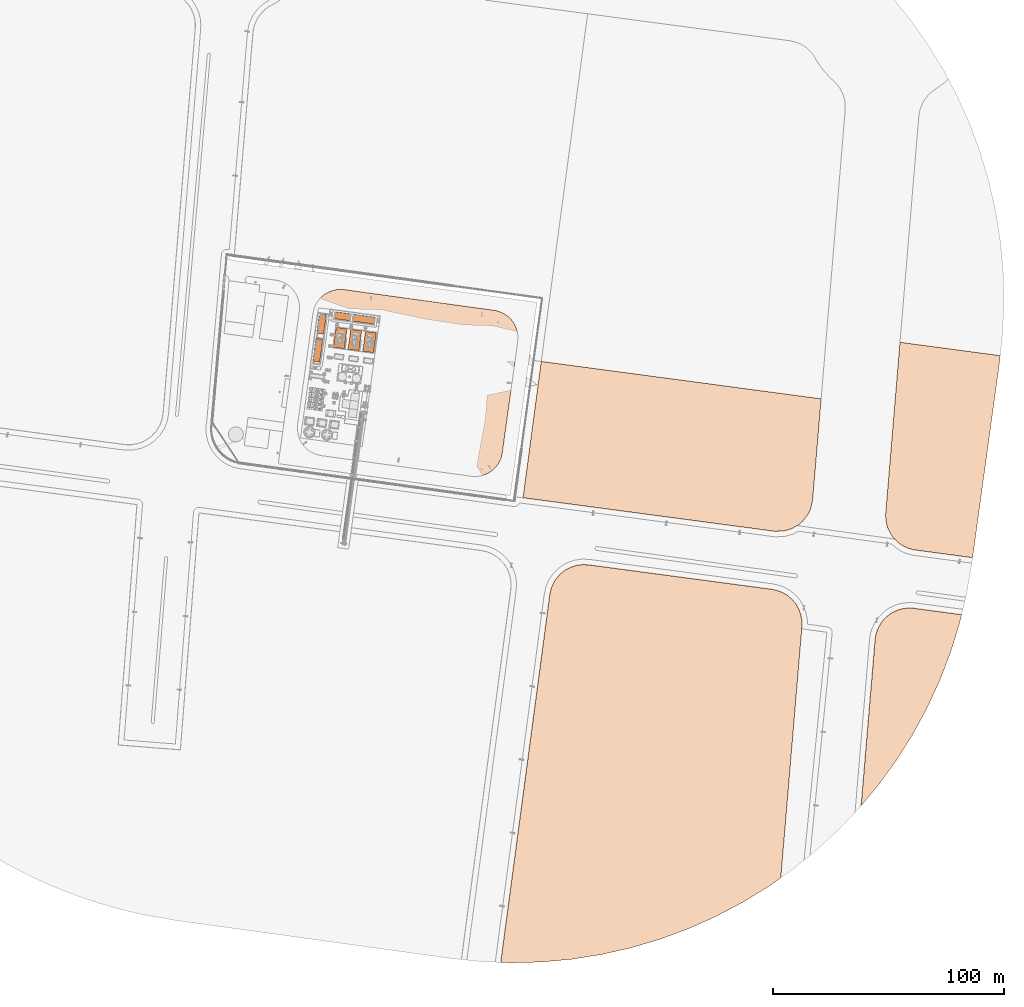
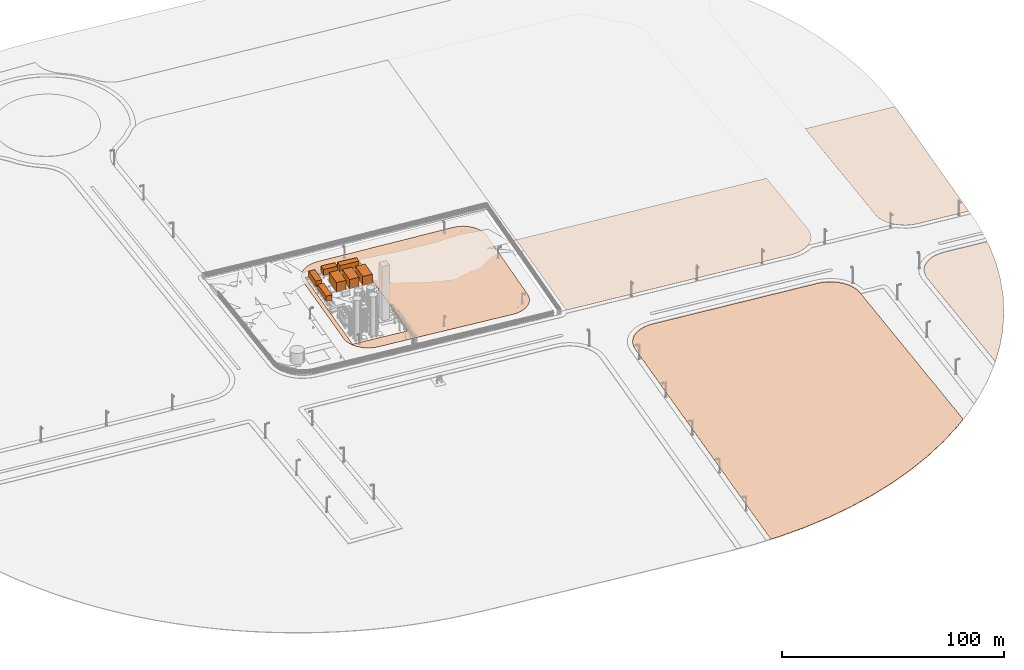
# Not in any storey, part 73 of 75: 7 proxies, 5 geographic elements.
"""IFC4 model written with IfcOpenShell, lengths in metres."""

from ifc_helpers import new_model, si_unit, direction, origin, origin_with_axes, place, context, subcontext, project, spatial, triangles, element, save


model = new_model("IFC4")

# Units and contexts
model_context = context("Model", 3, precision=1e-05, world=origin_with_axes(), true_north=direction((0.0, 1.0)))
body_context = subcontext(model_context, "Body", "Model", "MODEL_VIEW")
ifc_project = project(units=[si_unit("AREAUNIT", "SQUARE_METRE"), si_unit("VOLUMEUNIT", "CUBIC_METRE"), si_unit("LENGTHUNIT", "METRE")], contexts=[model_context])

# Site
site_placement = place(None, origin_with_axes())
site = spatial("IfcSite", under=ifc_project, at=site_placement, Name="Parcela industrial Jinhong")

# Geographic element
geographic_element_1_placement = place(site_placement, origin_with_axes())
element("IfcGeographicElement", 1, at=geographic_element_1_placement, inside=site, Name="Zona verde 01", ObjectType="Zonas verdes", PredefinedType="USERDEFINED", context=body_context, shape_type="Tessellation", body=[
    triangles([(32.058628, 29.712576, 1.096593), (32.502688, 30.025706, 1.103827), (32.512552, 30.017039, 1.104093), (41.523277, 22.368573, 1.171597), (42.918307, 28.588013, 1.254918), (50.71433, 27.498025, 1.321823), (84.274938, 89.754356, 1.79105), (66.369342, 77.999795, 1.493502), (66.539488, 79.121568, 1.489537), (77.398109, 90.708115, 1.640001), (66.675538, 80.209033, 1.485085), (66.947653, 82.11204, 1.478011), (60.921046, 92.956342, 1.278333), (65.449758, 82.928418, 1.441017), (60.241065, 83.643762, 1.326656), (51.457057, 94.28474, 1.070351), (52.308926, 84.73379, 1.152495), (47.951298, 85.34691, 1.056722), (32.603058, 30.902492, 1.100042), (31.377333, 32.12654, 1.066031), (32.943208, 33.38324, 1.090513), (31.649752, 30.90298, 1.079988), (33.147379, 34.640964, 1.08635), (31.172894, 34.641808, 1.044816), (31.274897, 35.899206, 1.038506), (38.180874, 85.281591, 0.851667), (39.951289, 84.057776, 0.897133), (37.94278, 84.058554, 0.854884), (40.121402, 85.281377, 0.892482), (38.520735, 86.401704, 0.851283), (40.289727, 86.391166, 0.888559), (39.031871, 87.626994, 0.853793), (40.29748, 86.40064, 0.888659), (39.61065, 88.7486, 0.858424), (40.32546, 89.767966, 0.866603), (42.095077, 91.568347, 0.891715), (43.082768, 92.316149, 0.907459), (44.172022, 92.961541, 0.926028), (45.295508, 93.505015, 0.946003), (46.486878, 93.912458, 0.96832), (47.712537, 94.217968, 0.992044), (48.937467, 94.353474, 1.016896), (50.19688, 94.387092, 1.043158), (50.503924, 94.353006, 1.049845), (52.001657, 94.216611, 1.082263), (67.004053, 82.725541, 1.475072), (65.688963, 73.071732, 1.512332), (91.764494, 88.732438, 1.955444), (126.592289, 71.829846, 2.58411), (99.730733, 87.608402, 2.13055), (116.34415, 85.326112, 2.495315), (118.761352, 84.713522, 2.550274), (117.569886, 85.087754, 2.522698), (122.063698, 82.911044, 2.631851), (119.918917, 84.237279, 2.577823), (121.042393, 83.625113, 2.605569), (123.016992, 82.09498, 2.657389), (123.868101, 81.177052, 2.660465), (125.808788, 77.981526, 2.644594), (124.617114, 80.191174, 2.657092), (125.298108, 79.103213, 2.651893), (126.217389, 76.791842, 2.635503), (126.523863, 75.568008, 2.624997), (126.660097, 74.311051, 2.612396), (126.694276, 73.053563, 2.598756), (109.575992, 13.442958, 1.762172), (119.890266, 23.4316, 1.977834), (114.784878, 15.378888, 1.836509), (119.992493, 24.044486, 1.985687), (119.95843, 23.67032, 1.98118), (119.685921, 22.343883, 1.963663), (119.822323, 22.956488, 1.97186), (119.720242, 22.412827, 1.964778), (118.256592, 18.980247, 1.91176), (119.345796, 21.223076, 1.947749), (118.869537, 20.068221, 1.930075), (116.724803, 17.009431, 1.874311), (117.542142, 17.927351, 1.892806), (115.805569, 16.12594, 1.855165), (113.729093, 14.733153, 1.818624), (112.572262, 14.189948, 1.800855), (111.414203, 13.78225, 1.784581), (110.189342, 13.510858, 1.769145), (108.929829, 13.341279, 1.754491), (107.669441, 13.30766, 1.741341), (106.410294, 13.443956, 1.730093), (105.865585, 13.512096, 1.725329), (120.298627, 26.321306, 2.014116), (103.788919, 13.78464, 1.707309), (100.793084, 14.193392, 1.681487), (86.699044, 16.135009, 1.560211), (80.469073, 17.020592, 1.506908), (59.247419, 26.341385, 1.395458), (58.102398, 20.08633, 1.314276), (40.297273, 22.606967, 1.161821), (41.148726, 22.436668, 1.168558), (39.106276, 22.981028, 1.153908), (37.948903, 23.457134, 1.147472), (37.539848, 23.695413, 1.145976), (34.850136, 25.599785, 1.139892), (34.645777, 29.712136, 1.15101), (35.80342, 24.783721, 1.140479), (34.169647, 26.347234, 1.141308), (33.998974, 26.517774, 1.141475), (33.250388, 27.50306, 1.136517), (32.603149, 28.59137, 1.115586), (66.029142, 75.586762, 1.502574), (57.07406, 93.501326, 1.193757), (55.849387, 84.256891, 1.230166), (54.07832, 93.910082, 1.128001), (41.176021, 90.718898, 0.878097), (96.946098, 14.738393, 1.648552), (36.858854, 24.069576, 1.143234), (31.207073, 33.383606, 1.053996), (67.014042, 82.716926, 1.47534), (120.094499, 24.757857, 1.994656), (59.260874, 26.351647, 1.395709), (66.102588, 18.996292, 1.38325), (73.558228, 17.940372, 1.447083), (38.521262, 86.471379, 0.850825), (32.058628, 29.712576, 1.196593), (32.502688, 30.025706, 1.203827), (32.512552, 30.017039, 1.204093), (41.523277, 22.368573, 1.271597), (42.918307, 28.588013, 1.354918), (50.71433, 27.498025, 1.421823), (84.274938, 89.754356, 1.89105), (66.369342, 77.999795, 1.593502), (66.539488, 79.121568, 1.589537), (77.398109, 90.708115, 1.740001), (66.675538, 80.209033, 1.585085), (66.947653, 82.11204, 1.578011), (60.921046, 92.956342, 1.378333), (65.449758, 82.928418, 1.541017), (60.241065, 83.643762, 1.426656), (51.457057, 94.28474, 1.170351), (52.308926, 84.73379, 1.252495), (47.951298, 85.34691, 1.156722), (32.603058, 30.902492, 1.200042), (31.377333, 32.12654, 1.166031), (32.943208, 33.38324, 1.190513), (31.649752, 30.90298, 1.179988), (33.147379, 34.640964, 1.18635), (31.172894, 34.641808, 1.144816), (31.274897, 35.899206, 1.138506), (38.180874, 85.281591, 0.951667), (39.951289, 84.057776, 0.997133), (37.94278, 84.058554, 0.954884), (40.121402, 85.281377, 0.992482), (38.520735, 86.401704, 0.951283), (40.289727, 86.391166, 0.988559), (39.031871, 87.626994, 0.953793), (40.29748, 86.40064, 0.988659), (39.61065, 88.7486, 0.958424), (40.32546, 89.767966, 0.966603), (42.095077, 91.568347, 0.991715), (43.082768, 92.316149, 1.007459), (44.172022, 92.961541, 1.026028), (45.295508, 93.505015, 1.046003), (46.486878, 93.912458, 1.06832), (47.712537, 94.217968, 1.092044), (48.937467, 94.353474, 1.116896), (50.19688, 94.387092, 1.143158), (50.503924, 94.353006, 1.149845), (52.001657, 94.216611, 1.182263), (67.004053, 82.725541, 1.575072), (65.688963, 73.071732, 1.612332), (91.764494, 88.732438, 2.055444), (126.592289, 71.829846, 2.68411), (99.730733, 87.608402, 2.23055), (116.34415, 85.326112, 2.595315), (118.761352, 84.713522, 2.650274), (117.569886, 85.087754, 2.622698), (122.063698, 82.911044, 2.731851), (119.918917, 84.237279, 2.677823), (121.042393, 83.625113, 2.705569), (123.016992, 82.09498, 2.757389), (123.868101, 81.177052, 2.760465), (125.808788, 77.981526, 2.744594), (124.617114, 80.191174, 2.757092), (125.298108, 79.103213, 2.751893), (126.217389, 76.791842, 2.735503), (126.523863, 75.568008, 2.724997), (126.660097, 74.311051, 2.712396), (126.694276, 73.053563, 2.698756), (109.575992, 13.442958, 1.862172), (119.890266, 23.4316, 2.077834), (114.784878, 15.378888, 1.936509), (119.992493, 24.044486, 2.085687), (119.95843, 23.67032, 2.08118), (119.685921, 22.343883, 2.063663), (119.822323, 22.956488, 2.07186), (119.720242, 22.412827, 2.064778), (118.256592, 18.980247, 2.01176), (119.345796, 21.223076, 2.047749), (118.869537, 20.068221, 2.030075), (116.724803, 17.009431, 1.974311), (117.542142, 17.927351, 1.992806), (115.805569, 16.12594, 1.955165), (113.729093, 14.733153, 1.918624), (112.572262, 14.189948, 1.900855), (111.414203, 13.78225, 1.884581), (110.189342, 13.510858, 1.869145), (108.929829, 13.341279, 1.854491), (107.669441, 13.30766, 1.841341), (106.410294, 13.443956, 1.830093), (105.865585, 13.512096, 1.825329), (120.298627, 26.321306, 2.114116), (103.788919, 13.78464, 1.807309), (100.793084, 14.193392, 1.781487), (86.699044, 16.135009, 1.660211), (80.469073, 17.020592, 1.606908), (59.247419, 26.341385, 1.495458), (58.102398, 20.08633, 1.414276), (40.297273, 22.606967, 1.261821), (41.148726, 22.436668, 1.268558), (39.106276, 22.981028, 1.253908), (37.948903, 23.457134, 1.247472), (37.539848, 23.695413, 1.245976), (34.850136, 25.599785, 1.239892), (34.645777, 29.712136, 1.25101), (35.80342, 24.783721, 1.240479), (34.169647, 26.347234, 1.241308), (33.998974, 26.517774, 1.241475), (33.250388, 27.50306, 1.236517), (32.603149, 28.59137, 1.215586), (66.029142, 75.586762, 1.602574), (57.07406, 93.501326, 1.293757), (55.849387, 84.256891, 1.330166), (54.07832, 93.910082, 1.228001), (41.176021, 90.718898, 0.978097), (96.946098, 14.738393, 1.748552), (36.858854, 24.069576, 1.243234), (31.207073, 33.383606, 1.153996), (67.014042, 82.716926, 1.57534), (120.094499, 24.757857, 2.094656), (59.260874, 26.351647, 1.495709), (66.102588, 18.996292, 1.48325), (73.558228, 17.940372, 1.547083), (38.521262, 86.471379, 0.950825)], [[1, 2, 3], [4, 5, 6], [7, 8, 9], [10, 11, 12], [13, 14, 15], [16, 17, 18], [19, 20, 21], [22, 2, 1], [19, 22, 20], [23, 24, 25], [26, 27, 28], [29, 26, 30], [31, 32, 33], [33, 34, 35], [18, 36, 37], [18, 37, 38], [18, 39, 40], [18, 41, 42], [18, 43, 44], [17, 16, 45], [14, 13, 46], [47, 7, 48], [49, 50, 51], [52, 51, 53], [54, 52, 55], [55, 56, 54], [54, 57, 58], [59, 60, 61], [60, 59, 62], [62, 63, 64], [64, 65, 49], [66, 67, 68], [69, 70, 67], [71, 72, 73], [74, 75, 76], [77, 74, 78], [68, 77, 79], [66, 68, 80], [66, 81, 82], [82, 83, 66], [66, 84, 85], [69, 86, 87], [88, 89, 90], [47, 91, 92], [93, 94, 6], [95, 5, 96], [5, 95, 97], [5, 98, 99], [100, 101, 102], [101, 100, 103], [101, 104, 105], [3, 106, 1], [106, 3, 101], [7, 107, 8], [108, 109, 110], [2, 22, 19], [21, 24, 23], [26, 29, 27], [33, 35, 111], [18, 111, 36], [43, 18, 42], [18, 44, 16], [47, 48, 50], [52, 49, 51], [52, 54, 58], [52, 60, 62], [52, 64, 49], [75, 67, 71], [72, 71, 67], [67, 75, 74], [67, 77, 68], [81, 66, 80], [86, 66, 85], [88, 90, 112], [96, 5, 4], [98, 5, 97], [5, 102, 101], [101, 105, 106], [102, 5, 113], [7, 47, 107], [17, 110, 109], [114, 21, 20], [24, 21, 114], [34, 33, 32], [18, 40, 41], [7, 11, 10], [52, 62, 64], [91, 47, 88], [86, 69, 67], [67, 74, 77], [67, 66, 86], [88, 112, 91], [4, 6, 94], [113, 5, 99], [101, 103, 104], [111, 18, 33], [23, 25, 27], [18, 38, 39], [46, 10, 115], [60, 52, 58], [87, 116, 69], [116, 87, 89], [117, 94, 93], [94, 117, 118], [28, 27, 25], [17, 45, 110], [89, 88, 116], [118, 117, 119], [31, 29, 30], [119, 117, 92], [120, 31, 30], [47, 92, 117], [32, 31, 120], [50, 88, 47], [13, 109, 108], [88, 50, 49], [109, 13, 15], [7, 9, 11], [10, 46, 13], [10, 12, 115], [123, 122, 121], [126, 125, 124], [129, 128, 127], [132, 131, 130], [135, 134, 133], [138, 137, 136], [141, 140, 139], [121, 122, 142], [140, 142, 139], [145, 144, 143], [148, 147, 146], [150, 146, 149], [153, 152, 151], [155, 154, 153], [157, 156, 138], [158, 157, 138], [160, 159, 138], [162, 161, 138], [164, 163, 138], [165, 136, 137], [166, 133, 134], [168, 127, 167], [171, 170, 169], [173, 171, 172], [175, 172, 174], [174, 176, 175], [178, 177, 174], [181, 180, 179], [182, 179, 180], [184, 183, 182], [169, 185, 184], [188, 187, 186], [187, 190, 189], [193, 192, 191], [196, 195, 194], [198, 194, 197], [199, 197, 188], [200, 188, 186], [202, 201, 186], [186, 203, 202], [205, 204, 186], [207, 206, 189], [210, 209, 208], [212, 211, 167], [126, 214, 213], [216, 125, 215], [217, 215, 125], [219, 218, 125], [222, 221, 220], [223, 220, 221], [225, 224, 221], [121, 226, 123], [221, 123, 226], [128, 227, 127], [230, 229, 228], [139, 142, 122], [143, 144, 141], [147, 149, 146], [231, 155, 153], [156, 231, 138], [162, 138, 163], [136, 164, 138], [170, 168, 167], [171, 169, 172], [178, 174, 172], [182, 180, 172], [169, 184, 172], [191, 187, 195], [187, 191, 192], [194, 195, 187], [188, 197, 187], [200, 186, 201], [205, 186, 206], [232, 210, 208], [124, 125, 216], [217, 125, 218], [221, 222, 125], [226, 225, 221], [233, 125, 222], [227, 167, 127], [229, 230, 137], [140, 141, 234], [234, 141, 144], [152, 153, 154], [161, 160, 138], [130, 131, 127], [184, 182, 172], [208, 167, 211], [187, 189, 206], [197, 194, 187], [206, 186, 187], [211, 232, 208], [214, 126, 124], [219, 125, 233], [224, 223, 221], [153, 138, 231], [147, 145, 143], [159, 158, 138], [235, 130, 166], [178, 172, 180], [189, 236, 207], [209, 207, 236], [213, 214, 237], [238, 237, 214], [145, 147, 148], [230, 165, 137], [236, 208, 209], [239, 237, 238], [150, 149, 151], [212, 237, 239], [150, 151, 240], [237, 212, 167], [240, 151, 152], [167, 208, 170], [228, 229, 133], [169, 170, 208], [135, 133, 229], [131, 129, 127], [133, 166, 130], [235, 132, 130], [122, 123, 2], [2, 123, 3], [125, 126, 5], [5, 126, 6], [128, 129, 8], [8, 129, 9], [130, 127, 10], [10, 127, 7], [129, 131, 9], [9, 131, 11], [131, 132, 11], [11, 132, 12], [133, 130, 13], [13, 130, 10], [134, 135, 14], [14, 135, 15], [137, 138, 17], [17, 138, 18], [139, 122, 19], [19, 122, 2], [141, 139, 21], [21, 139, 19], [121, 142, 1], [1, 142, 22], [142, 140, 22], [22, 140, 20], [143, 141, 23], [23, 141, 21], [144, 145, 24], [24, 145, 25], [147, 143, 27], [27, 143, 23], [145, 148, 25], [25, 148, 28], [148, 146, 28], [28, 146, 26], [149, 147, 29], [29, 147, 27], [146, 150, 26], [26, 150, 30], [151, 149, 31], [31, 149, 29], [138, 153, 18], [18, 153, 33], [153, 151, 33], [33, 151, 31], [152, 154, 32], [32, 154, 34], [154, 155, 34], [34, 155, 35], [156, 157, 36], [36, 157, 37], [157, 158, 37], [37, 158, 38], [158, 159, 38], [38, 159, 39], [159, 160, 39], [39, 160, 40], [160, 161, 40], [40, 161, 41], [161, 162, 41], [41, 162, 42], [162, 163, 42], [42, 163, 43], [164, 136, 44], [44, 136, 16], [163, 164, 43], [43, 164, 44], [136, 165, 16], [16, 165, 45], [166, 134, 46], [46, 134, 14], [127, 168, 7], [7, 168, 48], [168, 170, 48], [48, 170, 50], [170, 171, 50], [50, 171, 51], [171, 173, 51], [51, 173, 53], [173, 172, 53], [53, 172, 52], [172, 175, 52], [52, 175, 55], [176, 174, 56], [56, 174, 54], [175, 176, 55], [55, 176, 56], [174, 177, 54], [54, 177, 57], [177, 178, 57], [57, 178, 58], [178, 180, 58], [58, 180, 60], [181, 179, 61], [61, 179, 59], [180, 181, 60], [60, 181, 61], [179, 182, 59], [59, 182, 62], [182, 183, 62], [62, 183, 63], [183, 184, 63], [63, 184, 64], [185, 169, 65], [65, 169, 49], [184, 185, 64], [64, 185, 65], [190, 187, 70], [70, 187, 67], [189, 190, 69], [69, 190, 70], [187, 192, 67], [67, 192, 72], [193, 191, 73], [73, 191, 71], [192, 193, 72], [72, 193, 73], [191, 195, 71], [71, 195, 75], [196, 194, 76], [76, 194, 74], [195, 196, 75], [75, 196, 76], [194, 198, 74], [74, 198, 78], [198, 197, 78], [78, 197, 77], [199, 188, 79], [79, 188, 68], [197, 199, 77], [77, 199, 79], [188, 200, 68], [68, 200, 80], [200, 201, 80], [80, 201, 81], [201, 202, 81], [81, 202, 82], [203, 186, 83], [83, 186, 66], [202, 203, 82], [82, 203, 83], [186, 204, 66], [66, 204, 84], [204, 205, 84], [84, 205, 85], [205, 206, 85], [85, 206, 86], [206, 207, 86], [86, 207, 87], [169, 208, 49], [49, 208, 88], [207, 209, 87], [87, 209, 89], [209, 210, 89], [89, 210, 90], [211, 212, 91], [91, 212, 92], [126, 213, 6], [6, 213, 93], [214, 124, 94], [94, 124, 4], [124, 216, 4], [4, 216, 96], [216, 215, 96], [96, 215, 95], [215, 217, 95], [95, 217, 97], [217, 218, 97], [97, 218, 98], [218, 219, 98], [98, 219, 99], [123, 221, 3], [3, 221, 101], [221, 125, 101], [101, 125, 5], [222, 220, 102], [102, 220, 100], [220, 223, 100], [100, 223, 103], [223, 224, 103], [103, 224, 104], [224, 225, 104], [104, 225, 105], [226, 121, 106], [106, 121, 1], [225, 226, 105], [105, 226, 106], [227, 128, 107], [107, 128, 8], [167, 227, 47], [47, 227, 107], [228, 133, 108], [108, 133, 13], [135, 229, 15], [15, 229, 109], [229, 137, 109], [109, 137, 17], [165, 230, 45], [45, 230, 110], [230, 228, 110], [110, 228, 108], [155, 231, 35], [35, 231, 111], [231, 156, 111], [111, 156, 36], [210, 232, 90], [90, 232, 112], [232, 211, 112], [112, 211, 91], [219, 233, 99], [99, 233, 113], [233, 222, 113], [113, 222, 102], [140, 234, 20], [20, 234, 114], [234, 144, 114], [114, 144, 24], [132, 235, 12], [12, 235, 115], [235, 166, 115], [115, 166, 46], [236, 189, 116], [116, 189, 69], [208, 236, 88], [88, 236, 116], [237, 167, 117], [117, 167, 47], [213, 237, 93], [93, 237, 117], [238, 214, 118], [118, 214, 94], [212, 239, 92], [92, 239, 119], [239, 238, 119], [119, 238, 118], [150, 240, 30], [30, 240, 120], [240, 152, 120], [120, 152, 32]], closed=True),
])

# Proxies
proxy_1_placement = place(site_placement, origin_with_axes())
element("IfcBuildingElementProxy", 2, at=proxy_1_placement, inside=site, Name="Cabina acústica de compresor AC-ENC-1", ObjectType="Envolvente acústica", PredefinedType="USERDEFINED", context=body_context, shape_type="Tessellation", body=[
    triangles([(46.789721, 69.338943, 1.1), (51.445921, 68.698784, 1.1), (52.630895, 77.317707, 1.1), (47.974695, 77.957866, 1.1), (46.789721, 69.338943, 6.3), (51.445921, 68.698784, 6.3), (52.630895, 77.317707, 6.3), (47.974695, 77.957866, 6.3)], [[1, 3, 2], [1, 4, 3], [5, 6, 7], [5, 7, 8], [1, 2, 6], [1, 6, 5], [2, 3, 7], [2, 7, 6], [3, 4, 8], [3, 8, 7], [4, 1, 5], [4, 5, 8]], closed=True),
])
proxy_2_placement = place(site_placement, origin_with_axes())
element("IfcBuildingElementProxy", 3, at=proxy_2_placement, inside=site, Name="Cabina acústica de compresor AC-ENC-2", ObjectType="Envolvente acústica", PredefinedType="USERDEFINED", context=body_context, shape_type="Tessellation", body=[
    triangles([(53.130078, 68.467237, 1.1), (57.786278, 67.827079, 1.1), (58.971252, 76.446002, 1.1), (54.315053, 77.086161, 1.1), (53.130078, 68.467237, 6.3), (57.786278, 67.827079, 6.3), (58.971252, 76.446002, 6.3), (54.315053, 77.086161, 6.3)], [[1, 3, 2], [1, 4, 3], [5, 6, 7], [5, 7, 8], [1, 2, 6], [1, 6, 5], [2, 3, 7], [2, 7, 6], [3, 4, 8], [3, 8, 7], [4, 1, 5], [4, 5, 8]], closed=True),
])
proxy_3_placement = place(site_placement, origin_with_axes())
element("IfcBuildingElementProxy", 4, at=proxy_3_placement, inside=site, Name="Cabina acústica de compresor AC-ENC-3", ObjectType="Envolvente acústica", PredefinedType="USERDEFINED", context=body_context, shape_type="Tessellation", body=[
    triangles([(59.470436, 67.595532, 1.1), (64.126636, 66.955374, 1.1), (65.31161, 75.574297, 1.1), (60.65541, 76.214456, 1.1), (59.470436, 67.595532, 6.3), (64.126636, 66.955374, 6.3), (65.31161, 75.574297, 6.3), (60.65541, 76.214456, 6.3)], [[1, 3, 2], [1, 4, 3], [5, 6, 7], [5, 7, 8], [1, 2, 6], [1, 6, 5], [2, 3, 7], [2, 7, 6], [3, 4, 8], [3, 8, 7], [4, 1, 5], [4, 5, 8]], closed=True),
])
proxy_4_placement = place(site_placement, origin_with_axes())
element("IfcBuildingElementProxy", 5, at=proxy_4_placement, inside=site, Name="Módulo de distribución eléctrica de baja tensión LV-CONTAINER", ObjectType="Envolvente de equipo", PredefinedType="USERDEFINED", context=body_context, shape_type="Tessellation", body=[
    triangles([(39.557888, 75.455952, 2.6000000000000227), (43.694474, 83.517661, 2.6000000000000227), (42.529931, 75.04734, 2.6000000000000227), (40.722432, 83.926273, 2.6000000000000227), (39.557888, 75.455952, 5.9000000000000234), (42.529931, 75.04734, 5.9000000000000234), (43.694474, 83.517661, 5.9000000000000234), (40.722432, 83.926273, 5.9000000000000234)], [[2, 3, 1], [1, 4, 2], [7, 5, 6], [7, 8, 5], [1, 3, 6], [6, 5, 1], [2, 7, 3], [3, 7, 6], [2, 4, 8], [8, 7, 2], [1, 5, 4], [5, 8, 4]], closed=True),
])
proxy_5_placement = place(site_placement, origin_with_axes())
element("IfcBuildingElementProxy", 6, at=proxy_5_placement, inside=site, Name="Módulo de distribución eléctrica de alta tensión HV-CONTAINER", ObjectType="Envolvente de equipo", PredefinedType="USERDEFINED", context=body_context, shape_type="Tessellation", body=[
    triangles([(55.152125, 80.60494, 2.6000000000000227), (64.774068, 82.310286, 2.6000000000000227), (64.365457, 79.338244, 2.6000000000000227), (55.560737, 83.576983, 2.6000000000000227), (55.152125, 80.60494, 5.9000000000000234), (64.365457, 79.338244, 5.9000000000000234), (64.774068, 82.310286, 5.9000000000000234), (55.560737, 83.576983, 5.9000000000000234)], [[1, 2, 3], [1, 4, 2], [7, 5, 6], [7, 8, 5], [1, 3, 6], [5, 1, 6], [3, 2, 7], [3, 7, 6], [2, 4, 8], [7, 2, 8], [4, 1, 5], [5, 8, 4]], closed=True),
])
proxy_6_placement = place(site_placement, origin_with_axes())
element("IfcBuildingElementProxy", 7, at=proxy_6_placement, inside=site, Name="Módulo de distribución eléctrica de 10 kV MV-CONTAINER", ObjectType="Envolvente de equipo", PredefinedType="USERDEFINED", context=body_context, shape_type="Tessellation", body=[
    triangles([(47.128074, 81.707892, 2.6000000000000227), (54.273315, 83.753748, 2.6000000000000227), (53.864703, 80.781705, 2.6000000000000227), (47.536686, 84.679935, 2.6000000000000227), (47.128074, 81.707892, 5.9000000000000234), (53.864703, 80.781705, 5.9000000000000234), (54.273315, 83.753748, 5.9000000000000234), (47.536686, 84.679935, 5.9000000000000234)], [[1, 2, 3], [1, 4, 2], [7, 5, 6], [7, 8, 5], [1, 3, 6], [5, 1, 6], [3, 2, 7], [3, 7, 6], [2, 4, 8], [7, 2, 8], [4, 1, 5], [5, 8, 4]], closed=True),
])
proxy_7_placement = place(site_placement, origin_with_axes())
element("IfcBuildingElementProxy", 8, at=proxy_7_placement, inside=site, Name="Módulo de instrumentación y control IC-CONTAINER", ObjectType="Envolvente de equipo", PredefinedType="USERDEFINED", context=body_context, shape_type="Tessellation", body=[
    triangles([(37.911778, 63.317034, 2.6000000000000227), (42.189516, 72.772507, 2.6000000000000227), (40.834287, 62.915232, 2.6000000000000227), (39.267007, 73.174308, 2.6000000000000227), (37.911778, 63.317034, 5.600000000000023), (40.834287, 62.915232, 5.600000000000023), (42.189516, 72.772507, 5.600000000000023), (39.267007, 73.174308, 5.600000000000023)], [[2, 3, 1], [1, 4, 2], [7, 5, 6], [7, 8, 5], [1, 3, 6], [6, 5, 1], [2, 7, 3], [3, 7, 6], [2, 4, 8], [8, 7, 2], [1, 5, 4], [5, 8, 4]], closed=True),
])

# Geographic elements
geographic_element_2_placement = place(None, origin())
element("IfcGeographicElement", 9, at=geographic_element_2_placement, inside=site, Name="Parcela catastral próxima · 9516103QD2091N", ObjectType="Parcela catastral próxima · 9516103QD2091N", PredefinedType="USERDEFINED", context=body_context, shape_type="Tessellation", body=[
    triangles([(247.626953, -7.896676, 3.083539), (245.269737, -9.273267, 3.05306), (242.001042, -10.247517, 3.013289), (136.79, 63.17, 2.012737), (238.192202, -10.419536, 2.969516), (128.906774, 4.13073, 1.765558), (258.03, 46.98, 3.348266), (254.3, 2.65, 3.187565), (253.36, -1.05, 3.167003), (248.59, -7.39, 3.095842), (250.15, -5.99, 3.117318), (247.720131, -7.898742, 3.084593), (252.45, -2.94, 3.151612), (247.626953, -7.896676, 3.163539), (245.269737, -9.273267, 3.13306), (242.001042, -10.247517, 3.093289), (136.79, 63.17, 2.092737), (238.192202, -10.419536, 3.049516), (128.906774, 4.13073, 1.845558), (258.03, 46.98, 3.428266), (254.3, 2.65, 3.267565), (253.36, -1.05, 3.247003), (248.59, -7.39, 3.175842), (250.15, -5.99, 3.197318), (247.720131, -7.898742, 3.164593), (252.45, -2.94, 3.231612)], [[1, 2, 3], [4, 5, 6], [5, 7, 8], [1, 8, 9], [10, 1, 11], [1, 10, 12], [5, 1, 3], [7, 5, 4], [11, 1, 13], [8, 1, 5], [13, 1, 9], [16, 15, 14], [19, 18, 17], [21, 20, 18], [22, 21, 14], [24, 14, 23], [25, 23, 14], [16, 14, 18], [17, 18, 20], [26, 14, 24], [18, 14, 21], [22, 14, 26], [14, 15, 1], [1, 15, 2], [15, 16, 2], [2, 16, 3], [16, 18, 3], [3, 18, 5], [19, 17, 6], [6, 17, 4], [18, 19, 5], [5, 19, 6], [17, 20, 4], [4, 20, 7], [20, 21, 7], [7, 21, 8], [21, 22, 8], [8, 22, 9], [24, 23, 11], [11, 23, 10], [25, 14, 12], [12, 14, 1], [23, 25, 10], [10, 25, 12], [22, 26, 9], [9, 26, 13], [26, 24, 13], [13, 24, 11]], closed=True),
])
geographic_element_3_placement = place(None, origin())
element("IfcGeographicElement", 10, at=geographic_element_3_placement, inside=site, Name="Parcela catastral próxima · 9713501QD2091S", ObjectType="Parcela catastral próxima · 9713501QD2091S", PredefinedType="USERDEFINED", context=body_context, shape_type="Tessellation", body=[
    triangles([(281.449339, -56.969954, 3.337223), (303.965205, -86.889453, 3.513438), (297.724348, -98.395208, 3.411767), (290.744247, -109.468098, 3.302845), (283.054798, -120.060694, 3.187138), (275.359065, -129.321239, 3.074913), (282.559261, -52.73382, 3.361148), (281.77883, -55.082303, 3.346007), (283.712556, -50.556999, 3.380072), (285.087765, -48.723415, 3.400603), (286.882011, -46.998914, 3.425608), (288.739489, -45.697396, 3.450204), (291.173732, -44.555192, 3.480934), (298.09914, -43.750336, 3.561836), (293.170121, -43.979375, 3.505173), (295.818712, -43.650429, 3.53617), (318.0015, -50.27581, 3.770752), (318.893932, -46.551112, 3.790839), (314.125541, -62.778116, 3.693316), (309.440086, -75.000113, 3.607422), (281.449339, -56.969954, 3.417223), (303.965205, -86.889453, 3.593438), (297.724348, -98.395208, 3.491767), (290.744247, -109.468098, 3.382845), (283.054798, -120.060694, 3.267138), (275.359065, -129.321239, 3.154913), (282.559261, -52.73382, 3.441148), (281.77883, -55.082303, 3.426007), (283.712556, -50.556999, 3.460072), (285.087765, -48.723415, 3.480603), (286.882011, -46.998914, 3.505608), (288.739489, -45.697396, 3.530204), (291.173732, -44.555192, 3.560934), (298.09914, -43.750336, 3.641836), (293.170121, -43.979375, 3.585173), (295.818712, -43.650429, 3.61617), (318.0015, -50.27581, 3.850752), (318.893932, -46.551112, 3.870839), (314.125541, -62.778116, 3.773316), (309.440086, -75.000113, 3.687422)], [[1, 2, 3], [1, 3, 4], [1, 5, 6], [7, 1, 8], [1, 7, 9], [9, 10, 11], [11, 12, 13], [14, 15, 16], [17, 14, 18], [14, 17, 19], [1, 20, 2], [1, 4, 5], [14, 11, 15], [15, 11, 13], [1, 14, 19], [1, 19, 20], [11, 14, 9], [1, 9, 14], [23, 22, 21], [24, 23, 21], [26, 25, 21], [28, 21, 27], [29, 27, 21], [31, 30, 29], [33, 32, 31], [36, 35, 34], [38, 34, 37], [39, 37, 34], [22, 40, 21], [25, 24, 21], [35, 31, 34], [33, 31, 35], [39, 34, 21], [40, 39, 21], [29, 34, 31], [34, 29, 21], [22, 23, 2], [2, 23, 3], [23, 24, 3], [3, 24, 4], [24, 25, 4], [4, 25, 5], [26, 21, 6], [6, 21, 1], [25, 26, 5], [5, 26, 6], [21, 28, 1], [1, 28, 8], [28, 27, 8], [8, 27, 7], [27, 29, 7], [7, 29, 9], [29, 30, 9], [9, 30, 10], [30, 31, 10], [10, 31, 11], [31, 32, 11], [11, 32, 12], [32, 33, 12], [12, 33, 13], [33, 35, 13], [13, 35, 15], [36, 34, 16], [16, 34, 14], [35, 36, 15], [15, 36, 16], [34, 38, 14], [14, 38, 18], [38, 37, 18], [18, 37, 17], [37, 39, 17], [17, 39, 19], [40, 22, 20], [20, 22, 2], [39, 40, 19], [19, 40, 20]], closed=True),
])
geographic_element_4_placement = place(None, origin())
element("IfcGeographicElement", 11, at=geographic_element_4_placement, inside=site, Name="Parcela catastral próxima · 9716501QD2091N", ObjectType="Parcela catastral próxima · 9716501QD2091N", PredefinedType="USERDEFINED", context=body_context, shape_type="Tessellation", body=[
    triangles([(140.50881, -37.802239, 1.785607), (224.060125, -171.156981, 2.379919), (212.47832, -177.255545, 2.231939), (200.522401, -182.583464, 2.081761), (188.24358, -187.117915, 1.930029), (175.694449, -190.839478, 1.777391), (162.928761, -193.732212, 1.624503), (123.882367, -197.331588, 1.170867), (136.967119, -196.985234, 1.32059), (119.247716, -197.15077, 1.118645), (145.249325, -28.732877, 1.863715), (141.078135, -35.25524, 1.798877), (142.074776, -32.853346, 1.81662), (143.480011, -30.650829, 1.838477), (149.629218, -25.956691, 1.92093), (147.323106, -27.149169, 1.891524), (152.104166, -25.181091, 1.951145), (154.702134, -24.84046, 1.981597), (157.302074, -24.959689, 2.010846), (249.669978, -51.634496, 2.990068), (236.749216, -35.559004, 2.886028), (238.59087, -35.927165, 2.905989), (241.048866, -36.805874, 2.931596), (243.311144, -38.10145, 2.953866), (245.314386, -39.77579, 2.972179), (246.988761, -41.759123, 2.985928), (248.304289, -44.011502, 2.994878), (249.201257, -46.463172, 2.998536), (249.659717, -49.024564, 2.996915), (249.586923, -52.629448, 2.986469), (249.632619, -52.678466, 2.986858), (240.556902, -160.537992, 2.595852), (235.21821, -164.313893, 2.525066), (150.001194, -195.783726, 1.472018), (140.50881, -37.802239, 1.865607), (224.060125, -171.156981, 2.459919), (212.47832, -177.255545, 2.311939), (200.522401, -182.583464, 2.161761), (188.24358, -187.117915, 2.010029), (175.694449, -190.839478, 1.857391), (162.928761, -193.732212, 1.704503), (123.882367, -197.331588, 1.250867), (136.967119, -196.985234, 1.40059), (119.247716, -197.15077, 1.198645), (145.249325, -28.732877, 1.943715), (141.078135, -35.25524, 1.878877), (142.074776, -32.853346, 1.89662), (143.480011, -30.650829, 1.918477), (149.629218, -25.956691, 2.00093), (147.323106, -27.149169, 1.971524), (152.104166, -25.181091, 2.031145), (154.702134, -24.84046, 2.061597), (157.302074, -24.959689, 2.090846), (249.669978, -51.634496, 3.070068), (236.749216, -35.559004, 2.966028), (238.59087, -35.927165, 2.985989), (241.048866, -36.805874, 3.011596), (243.311144, -38.10145, 3.033866), (245.314386, -39.77579, 3.052179), (246.988761, -41.759123, 3.065928), (248.304289, -44.011502, 3.074878), (249.201257, -46.463172, 3.078536), (249.659717, -49.024564, 3.076915), (249.586923, -52.629448, 3.066469), (249.632619, -52.678466, 3.066858), (240.556902, -160.537992, 2.675852), (235.21821, -164.313893, 2.605066), (150.001194, -195.783726, 1.552018)], [[1, 2, 3], [1, 4, 5], [1, 6, 7], [8, 1, 9], [1, 8, 10], [11, 12, 13], [11, 13, 14], [15, 11, 16], [12, 15, 17], [17, 18, 19], [20, 21, 22], [22, 23, 24], [22, 25, 26], [26, 27, 28], [22, 29, 20], [30, 31, 32], [30, 33, 2], [1, 5, 6], [9, 1, 34], [17, 1, 12], [1, 17, 19], [30, 19, 21], [25, 22, 24], [29, 26, 28], [33, 30, 32], [1, 3, 4], [1, 7, 34], [15, 12, 11], [29, 22, 26], [2, 1, 30], [1, 19, 30], [21, 20, 30], [37, 36, 35], [39, 38, 35], [41, 40, 35], [43, 35, 42], [44, 42, 35], [47, 46, 45], [48, 47, 45], [50, 45, 49], [51, 49, 46], [53, 52, 51], [56, 55, 54], [58, 57, 56], [60, 59, 56], [62, 61, 60], [54, 63, 56], [66, 65, 64], [36, 67, 64], [40, 39, 35], [68, 35, 43], [46, 35, 51], [53, 51, 35], [55, 53, 64], [58, 56, 59], [62, 60, 63], [66, 64, 67], [38, 37, 35], [68, 41, 35], [45, 46, 49], [60, 56, 63], [64, 35, 36], [64, 53, 35], [64, 54, 55], [36, 37, 2], [2, 37, 3], [37, 38, 3], [3, 38, 4], [38, 39, 4], [4, 39, 5], [39, 40, 5], [5, 40, 6], [40, 41, 6], [6, 41, 7], [43, 42, 9], [9, 42, 8], [44, 35, 10], [10, 35, 1], [42, 44, 8], [8, 44, 10], [35, 46, 1], [1, 46, 12], [46, 47, 12], [12, 47, 13], [48, 45, 14], [14, 45, 11], [47, 48, 13], [13, 48, 14], [45, 50, 11], [11, 50, 16], [50, 49, 16], [16, 49, 15], [49, 51, 15], [15, 51, 17], [51, 52, 17], [17, 52, 18], [52, 53, 18], [18, 53, 19], [53, 55, 19], [19, 55, 21], [55, 56, 21], [21, 56, 22], [56, 57, 22], [22, 57, 23], [57, 58, 23], [23, 58, 24], [58, 59, 24], [24, 59, 25], [59, 60, 25], [25, 60, 26], [60, 61, 26], [26, 61, 27], [61, 62, 27], [27, 62, 28], [63, 54, 29], [29, 54, 20], [62, 63, 28], [28, 63, 29], [54, 64, 20], [20, 64, 30], [64, 65, 30], [30, 65, 31], [65, 66, 31], [31, 66, 32], [67, 36, 33], [33, 36, 2], [66, 67, 32], [32, 67, 33], [41, 68, 7], [7, 68, 34], [68, 43, 34], [34, 43, 9]], closed=True),
])
geographic_element_5_placement = place(None, origin())
element("IfcGeographicElement", 12, at=geographic_element_5_placement, inside=site, Name="Parcela catastral próxima · 9716703QD2091N", ObjectType="Parcela catastral próxima · 9716703QD2091N", PredefinedType="USERDEFINED", context=body_context, shape_type="Tessellation", body=[
    triangles([(289.826773, -13.708057, 3.547924), (286.89, -9.0, 3.52709), (286.15, -6.23, 3.526066), (335.371969, 63.208828, 4.271094), (285.94, -3.37, 3.531309), (292.18, 71.47, 3.801962), (335.630392, 65.678649, 4.280623), (323.651021, -21.823669, 3.910916), (298.076531, -18.401766, 3.629216), (295.328123, -17.592939, 3.600119), (293.710254, -16.813485, 3.583801), (291.771293, -15.540366, 3.565148), (289.65, -13.61, 3.546176), (288.15, -11.59, 3.534508), (289.826773, -13.708057, 3.627924), (286.89, -9.0, 3.60709), (286.15, -6.23, 3.606066), (335.371969, 63.208828, 4.351094), (285.94, -3.37, 3.611309), (292.18, 71.47, 3.881962), (335.630392, 65.678649, 4.360623), (323.651021, -21.823669, 3.990916), (298.076531, -18.401766, 3.709216), (295.328123, -17.592939, 3.680119), (293.710254, -16.813485, 3.663801), (291.771293, -15.540366, 3.645148), (289.65, -13.61, 3.626176), (288.15, -11.59, 3.614508)], [[1, 2, 3], [4, 5, 6], [6, 7, 4], [5, 8, 9], [9, 10, 11], [11, 12, 1], [1, 13, 14], [1, 3, 5], [5, 9, 1], [9, 11, 1], [2, 1, 14], [8, 5, 4], [17, 16, 15], [20, 19, 18], [18, 21, 20], [23, 22, 19], [25, 24, 23], [15, 26, 25], [28, 27, 15], [19, 17, 15], [15, 23, 19], [15, 25, 23], [28, 15, 16], [18, 19, 22], [16, 17, 2], [2, 17, 3], [17, 19, 3], [3, 19, 5], [19, 20, 5], [5, 20, 6], [21, 18, 7], [7, 18, 4], [20, 21, 6], [6, 21, 7], [18, 22, 4], [4, 22, 8], [22, 23, 8], [8, 23, 9], [23, 24, 9], [9, 24, 10], [24, 25, 10], [10, 25, 11], [26, 15, 12], [12, 15, 1], [25, 26, 11], [11, 26, 12], [15, 27, 1], [1, 27, 13], [28, 16, 14], [14, 16, 2], [27, 28, 13], [13, 28, 14]], closed=True),
])

save(model, "model.ifc")
